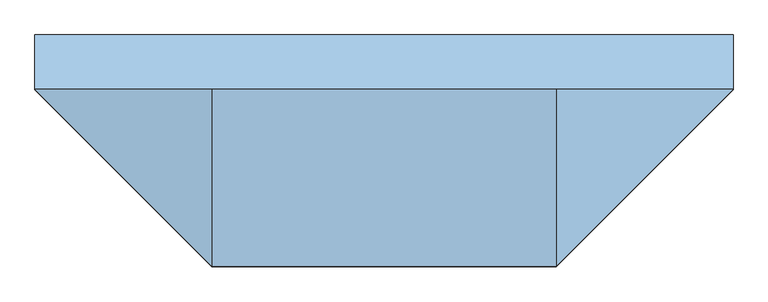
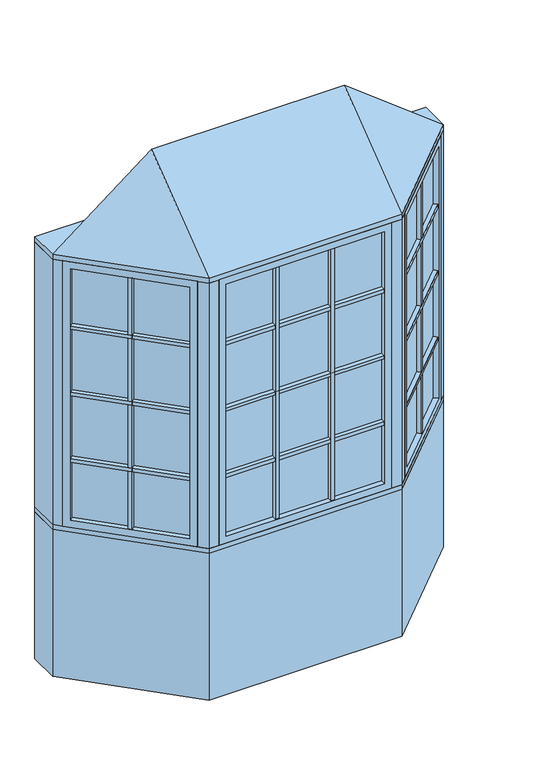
"""IFC4 building model written with IfcOpenShell, lengths in millimetres: window geometry, Pollard_Windows_Tudor Casement Bows and Bays : AML-BAY 45 AFR0614-08-600_GC."""

from ifc_helpers import new_model, si_unit, frame, origin, origin_with_axes, place, context, project, spatial, polyline, outline, extrude, faceted_brep, source, transform, mapped, element, save


def window_a6beb64d(model_context):
    return source(origin(), model_context, "Body", "SolidModel", [
        extrude(outline(polyline([(539.5114193, -506.9608753), (523.9550701, -491.4045261), (901.616171, -113.7434252), (917.1725202, -129.2997743), (539.5114193, -506.9608753)])), frame((0.0, 0.0, 1490.998), z_axis=(0.0, 0.0, 1.0), x_axis=(1.0, 0.0, 0.0)), (0.0, 0.0, 1.0), 18.0),
        extrude(outline(polyline([(520.3629677, -487.8124236), (504.8066185, -472.2560744), (882.4677194, -94.5949735), (898.0240686, -110.1513227), (520.3629677, -487.8124236)])), frame((0.0, 0.0, 1490.998), z_axis=(0.0, 0.0, 1.0), x_axis=(1.0, 0.0, 0.0)), (0.0, 0.0, 1.0), 18.0),
        extrude(outline(polyline([(539.5114193, -506.9608753), (523.9550701, -491.4045261), (901.616171, -113.7434252), (917.1725202, -129.2997743), (539.5114193, -506.9608753)])), frame((0.0, 0.0, 1140.998), z_axis=(0.0, 0.0, 1.0), x_axis=(1.0, 0.0, 0.0)), (0.0, 0.0, 1.0), 18.0),
        extrude(outline(polyline([(520.3629677, -487.8124236), (504.8066185, -472.2560744), (882.4677194, -94.5949735), (898.0240686, -110.1513227), (520.3629677, -487.8124236)])), frame((0.0, 0.0, 1140.998), z_axis=(0.0, 0.0, 1.0), x_axis=(1.0, 0.0, 0.0)), (0.0, 0.0, 1.0), 18.0),
        extrude(outline(polyline([(539.5114193, -506.9608753), (523.9550701, -491.4045261), (901.616171, -113.7434252), (917.1725202, -129.2997743), (539.5114193, -506.9608753)])), frame((0.0, 0.0, 1490.998), z_axis=(0.0, 0.0, 1.0), x_axis=(1.0, 0.0, 0.0)), (0.0, 0.0, 1.0), 18.0),
        extrude(outline(polyline([(520.3629677, -487.8124236), (504.8066185, -472.2560744), (882.4677194, -94.5949735), (898.0240686, -110.1513227), (520.3629677, -487.8124236)])), frame((0.0, 0.0, 1490.998), z_axis=(0.0, 0.0, 1.0), x_axis=(1.0, 0.0, 0.0)), (0.0, 0.0, 1.0), 18.0),
        extrude(outline(polyline([(539.5114193, -506.9608753), (523.9550701, -491.4045261), (901.616171, -113.7434252), (917.1725202, -129.2997743), (539.5114193, -506.9608753)])), frame((0.0, 0.0, 1490.998), z_axis=(0.0, 0.0, 1.0), x_axis=(1.0, 0.0, 0.0)), (0.0, 0.0, 1.0), 18.0),
        extrude(outline(polyline([(520.3629677, -487.8124236), (504.8066185, -472.2560744), (882.4677194, -94.5949735), (898.0240686, -110.1513227), (520.3629677, -487.8124236)])), frame((0.0, 0.0, 1490.998), z_axis=(0.0, 0.0, 1.0), x_axis=(1.0, 0.0, 0.0)), (0.0, 0.0, 1.0), 18.0),
        extrude(outline(polyline([(539.5114193, -506.9608753), (523.9550701, -491.4045261), (901.616171, -113.7434252), (917.1725202, -129.2997743), (539.5114193, -506.9608753)])), frame((0.0, 0.0, 1840.998), z_axis=(0.0, 0.0, 1.0), x_axis=(1.0, 0.0, 0.0)), (0.0, 0.0, 1.0), 18.0),
        extrude(outline(polyline([(520.3629677, -487.8124236), (504.8066185, -472.2560744), (882.4677194, -94.5949735), (898.0240686, -110.1513227), (520.3629677, -487.8124236)])), frame((0.0, 0.0, 1840.998), z_axis=(0.0, 0.0, 1.0), x_axis=(1.0, 0.0, 0.0)), (0.0, 0.0, 1.0), 18.0),
        extrude(outline(polyline([(719.1495816, -296.2100146), (734.7059308, -311.7663638), (721.9780087, -324.4942858), (706.4216595, -308.9379366), (719.1495816, -296.2100146)])), frame((0.0, 0.0, 835.8628), z_axis=(0.0, 0.0, 1.0), x_axis=(1.0, 0.0, 0.0)), (0.0, 0.0, 1.0), 1328.2704),
        extrude(outline(polyline([(715.5574791, -292.6179121), (702.8295571, -305.3458342), (687.2732079, -289.789485), (700.00113, -277.0615629), (715.5574791, -292.6179121)])), frame((0.0, 0.0, 835.8628), z_axis=(0.0, 0.0, 1.0), x_axis=(1.0, 0.0, 0.0)), (0.0, 0.0, 1.0), 1328.2704),
        extrude(outline(polyline([(910.5964271, -104.763169), (514.974814, -500.3847822), (511.3827115, -496.7926797), (907.0043247, -101.1710666), (910.5964271, -104.763169)])), frame((0.0, 0.0, 823.1628), z_axis=(0.0, 0.0, 1.0), x_axis=(1.0, 0.0, 0.0)), (0.0, 0.0, 1.0), 1353.6704),
        faceted_brep([(901.616171, -113.7434252, 835.8628), (919.5766833, -131.7039374, 835.8628), (919.5766833, -131.7039374, 2164.1332), (901.616171, -113.7434252, 2164.1332), (907.0043247, -101.1710666, 823.1628), (910.5964271, -104.763169, 823.1628), (910.5964271, -104.763169, 2176.8332), (907.0043247, -101.1710666, 2176.8332), (880.0635563, -92.1908105, 835.8628), (898.0240686, -110.1513227, 835.8628), (898.0240686, -110.1513227, 2164.1332), (880.0635563, -92.1908105, 2164.1332), (944.9369265, -106.3436941, 799.998), (905.4237996, -66.8305672, 799.998), (905.4237996, -66.8305672, 2199.998), (944.9369265, -106.3436941, 2199.998), (541.9155823, -509.3650383, 2164.1332), (523.9550701, -491.4045261, 2164.1332), (514.974814, -500.3847822, 2176.8332), (511.3827115, -496.7926797, 2176.8332), (520.3629677, -487.8124236, 2164.1332), (502.4024554, -469.8519114, 2164.1332), (477.0422121, -495.2121547, 2199.998), (516.5553391, -534.7252816, 2199.998), (541.9155823, -509.3650383, 835.8628), (523.9550701, -491.4045261, 835.8628), (514.974814, -500.3847822, 823.1628), (511.3827115, -496.7926797, 823.1628), (520.3629677, -487.8124236, 835.8628), (502.4024554, -469.8519114, 835.8628), (477.0422121, -495.2121547, 799.998), (516.5553391, -534.7252816, 799.998)], [[[0, 1, 2, 3]], [[4, 5, 6, 7]], [[8, 9, 10, 11]], [[12, 13, 14, 15]], [[3, 2, 16, 17]], [[7, 6, 18, 19]], [[11, 10, 20, 21]], [[15, 14, 22, 23]], [[17, 16, 24, 25]], [[19, 18, 26, 27]], [[21, 20, 28, 29]], [[23, 22, 30, 31]], [[25, 24, 1, 0]], [[5, 26, 18, 6], [3, 17, 25, 0]], [[27, 26, 5, 4]], [[7, 19, 27, 4], [9, 28, 20, 10]], [[29, 28, 9, 8]], [[13, 30, 22, 14], [11, 21, 29, 8]], [[31, 30, 13, 12]], [[15, 23, 31, 12], [1, 24, 16, 2]]]),
        extrude(outline(polyline([(148.0118667, -544.6806207), (148.0118667, -566.6806207), (130.0118667, -566.6806207), (130.0118667, -544.6806207), (148.0118667, -544.6806207)])), frame((0.0, 0.0, 835.8628), z_axis=(0.0, 0.0, 1.0), x_axis=(1.0, 0.0, 0.0)), (0.0, 0.0, 1.0), 1328.2704),
        extrude(outline(polyline([(148.0118667, -539.6006207), (130.0118667, -539.6006207), (130.0118667, -517.6006207), (148.0118667, -517.6006207), (148.0118667, -539.6006207)])), frame((0.0, 0.0, 835.8628), z_axis=(0.0, 0.0, 1.0), x_axis=(1.0, 0.0, 0.0)), (0.0, 0.0, 1.0), 1328.2704),
        extrude(outline(polyline([(-130.0118667, -544.6806207), (-130.0118667, -566.6806207), (-148.0118667, -566.6806207), (-148.0118667, -544.6806207), (-130.0118667, -544.6806207)])), frame((0.0, 0.0, 835.8628), z_axis=(0.0, 0.0, 1.0), x_axis=(1.0, 0.0, 0.0)), (0.0, 0.0, 1.0), 1328.2704),
        extrude(outline(polyline([(-130.0118667, -539.6006207), (-148.0118667, -539.6006207), (-148.0118667, -517.6006207), (-130.0118667, -517.6006207), (-130.0118667, -539.6006207)])), frame((0.0, 0.0, 835.8628), z_axis=(0.0, 0.0, 1.0), x_axis=(1.0, 0.0, 0.0)), (0.0, 0.0, 1.0), 1328.2704),
        extrude(outline(polyline([(-395.3352, -566.6806207), (-395.3352, -544.6806207), (395.3352, -544.6806207), (395.3352, -566.6806207), (-395.3352, -566.6806207)])), frame((0.0, 0.0, 1140.998), z_axis=(0.0, 0.0, 1.0), x_axis=(1.0, 0.0, 0.0)), (0.0, 0.0, 1.0), 18.0),
        extrude(outline(polyline([(-395.3352, -539.6006207), (-395.3352, -517.6006207), (395.3352, -517.6006207), (395.3352, -539.6006207), (-395.3352, -539.6006207)])), frame((0.0, 0.0, 1140.998), z_axis=(0.0, 0.0, 1.0), x_axis=(1.0, 0.0, 0.0)), (0.0, 0.0, 1.0), 18.0),
        extrude(outline(polyline([(-395.3352, -566.6806207), (-395.3352, -544.6806207), (395.3352, -544.6806207), (395.3352, -566.6806207), (-395.3352, -566.6806207)])), frame((0.0, 0.0, 1490.998), z_axis=(0.0, 0.0, 1.0), x_axis=(1.0, 0.0, 0.0)), (0.0, 0.0, 1.0), 18.0),
        extrude(outline(polyline([(-395.3352, -539.6006207), (-395.3352, -517.6006207), (395.3352, -517.6006207), (395.3352, -539.6006207), (-395.3352, -539.6006207)])), frame((0.0, 0.0, 1490.998), z_axis=(0.0, 0.0, 1.0), x_axis=(1.0, 0.0, 0.0)), (0.0, 0.0, 1.0), 18.0),
        extrude(outline(polyline([(-395.3352, -566.6806207), (-395.3352, -544.6806207), (395.3352, -544.6806207), (395.3352, -566.6806207), (-395.3352, -566.6806207)])), frame((0.0, 0.0, 1490.998), z_axis=(0.0, 0.0, 1.0), x_axis=(1.0, 0.0, 0.0)), (0.0, 0.0, 1.0), 18.0),
        extrude(outline(polyline([(-395.3352, -539.6006207), (-395.3352, -517.6006207), (395.3352, -517.6006207), (395.3352, -539.6006207), (-395.3352, -539.6006207)])), frame((0.0, 0.0, 1490.998), z_axis=(0.0, 0.0, 1.0), x_axis=(1.0, 0.0, 0.0)), (0.0, 0.0, 1.0), 18.0),
        extrude(outline(polyline([(-395.3352, -566.6806207), (-395.3352, -544.6806207), (395.3352, -544.6806207), (395.3352, -566.6806207), (-395.3352, -566.6806207)])), frame((0.0, 0.0, 1490.998), z_axis=(0.0, 0.0, 1.0), x_axis=(1.0, 0.0, 0.0)), (0.0, 0.0, 1.0), 18.0),
        extrude(outline(polyline([(-395.3352, -539.6006207), (-395.3352, -517.6006207), (395.3352, -517.6006207), (395.3352, -539.6006207), (-395.3352, -539.6006207)])), frame((0.0, 0.0, 1490.998), z_axis=(0.0, 0.0, 1.0), x_axis=(1.0, 0.0, 0.0)), (0.0, 0.0, 1.0), 18.0),
        extrude(outline(polyline([(-917.1725202, -129.2997743), (-901.616171, -113.7434252), (-523.9550701, -491.4045261), (-539.5114193, -506.9608753), (-917.1725202, -129.2997743)])), frame((0.0, 0.0, 1140.998), z_axis=(0.0, 0.0, 1.0), x_axis=(1.0, 0.0, 0.0)), (0.0, 0.0, 1.0), 18.0),
        extrude(outline(polyline([(-898.0240686, -110.1513227), (-882.4677194, -94.5949735), (-504.8066185, -472.2560744), (-520.3629677, -487.8124236), (-898.0240686, -110.1513227)])), frame((0.0, 0.0, 1140.998), z_axis=(0.0, 0.0, 1.0), x_axis=(1.0, 0.0, 0.0)), (0.0, 0.0, 1.0), 18.0),
        extrude(outline(polyline([(-917.1725202, -129.2997743), (-901.616171, -113.7434252), (-523.9550701, -491.4045261), (-539.5114193, -506.9608753), (-917.1725202, -129.2997743)])), frame((0.0, 0.0, 1490.998), z_axis=(0.0, 0.0, 1.0), x_axis=(1.0, 0.0, 0.0)), (0.0, 0.0, 1.0), 18.0),
        extrude(outline(polyline([(-898.0240686, -110.1513227), (-882.4677194, -94.5949735), (-504.8066185, -472.2560744), (-520.3629677, -487.8124236), (-898.0240686, -110.1513227)])), frame((0.0, 0.0, 1490.998), z_axis=(0.0, 0.0, 1.0), x_axis=(1.0, 0.0, 0.0)), (0.0, 0.0, 1.0), 18.0),
        extrude(outline(polyline([(-917.1725202, -129.2997743), (-901.616171, -113.7434252), (-523.9550701, -491.4045261), (-539.5114193, -506.9608753), (-917.1725202, -129.2997743)])), frame((0.0, 0.0, 1490.998), z_axis=(0.0, 0.0, 1.0), x_axis=(1.0, 0.0, 0.0)), (0.0, 0.0, 1.0), 18.0),
        extrude(outline(polyline([(-898.0240686, -110.1513227), (-882.4677194, -94.5949735), (-504.8066185, -472.2560744), (-520.3629677, -487.8124236), (-898.0240686, -110.1513227)])), frame((0.0, 0.0, 1490.998), z_axis=(0.0, 0.0, 1.0), x_axis=(1.0, 0.0, 0.0)), (0.0, 0.0, 1.0), 18.0),
        extrude(outline(polyline([(-917.1725202, -129.2997743), (-901.616171, -113.7434252), (-523.9550701, -491.4045261), (-539.5114193, -506.9608753), (-917.1725202, -129.2997743)])), frame((0.0, 0.0, 1490.998), z_axis=(0.0, 0.0, 1.0), x_axis=(1.0, 0.0, 0.0)), (0.0, 0.0, 1.0), 18.0),
        extrude(outline(polyline([(-898.0240686, -110.1513227), (-882.4677194, -94.5949735), (-504.8066185, -472.2560744), (-520.3629677, -487.8124236), (-898.0240686, -110.1513227)])), frame((0.0, 0.0, 1490.998), z_axis=(0.0, 0.0, 1.0), x_axis=(1.0, 0.0, 0.0)), (0.0, 0.0, 1.0), 18.0),
        extrude(outline(polyline([(-917.1725202, -129.2997743), (-901.616171, -113.7434252), (-523.9550701, -491.4045261), (-539.5114193, -506.9608753), (-917.1725202, -129.2997743)])), frame((0.0, 0.0, 1840.998), z_axis=(0.0, 0.0, 1.0), x_axis=(1.0, 0.0, 0.0)), (0.0, 0.0, 1.0), 18.0),
        extrude(outline(polyline([(-898.0240686, -110.1513227), (-882.4677194, -94.5949735), (-504.8066185, -472.2560744), (-520.3629677, -487.8124236), (-898.0240686, -110.1513227)])), frame((0.0, 0.0, 1840.998), z_axis=(0.0, 0.0, 1.0), x_axis=(1.0, 0.0, 0.0)), (0.0, 0.0, 1.0), 18.0),
        extrude(outline(polyline([(-395.3352, -566.6806207), (-395.3352, -544.6806207), (395.3352, -544.6806207), (395.3352, -566.6806207), (-395.3352, -566.6806207)])), frame((0.0, 0.0, 1840.998), z_axis=(0.0, 0.0, 1.0), x_axis=(1.0, 0.0, 0.0)), (0.0, 0.0, 1.0), 18.0),
        extrude(outline(polyline([(-395.3352, -539.6006207), (-395.3352, -517.6006207), (395.3352, -517.6006207), (395.3352, -539.6006207), (-395.3352, -539.6006207)])), frame((0.0, 0.0, 1840.998), z_axis=(0.0, 0.0, 1.0), x_axis=(1.0, 0.0, 0.0)), (0.0, 0.0, 1.0), 18.0),
        extrude(outline(polyline([(-706.4216595, -308.9379366), (-721.9780087, -324.4942858), (-734.7059308, -311.7663638), (-719.1495816, -296.2100146), (-706.4216595, -308.9379366)])), frame((0.0, 0.0, 835.8628), z_axis=(0.0, 0.0, 1.0), x_axis=(1.0, 0.0, 0.0)), (0.0, 0.0, 1.0), 1328.2704),
        extrude(outline(polyline([(-702.8295571, -305.3458342), (-715.5574791, -292.6179121), (-700.00113, -277.0615629), (-687.2732079, -289.789485), (-702.8295571, -305.3458342)])), frame((0.0, 0.0, 835.8628), z_axis=(0.0, 0.0, 1.0), x_axis=(1.0, 0.0, 0.0)), (0.0, 0.0, 1.0), 1328.2704),
        extrude(outline(polyline([(-514.974814, -500.3847822), (-910.5964271, -104.763169), (-907.0043247, -101.1710666), (-511.3827115, -496.7926797), (-514.974814, -500.3847822)])), frame((0.0, 0.0, 823.1628), z_axis=(0.0, 0.0, 1.0), x_axis=(1.0, 0.0, 0.0)), (0.0, 0.0, 1.0), 1353.6704),
        faceted_brep([(-520.3629677, -487.8124236, 2164.1332), (-502.4024554, -469.8519114, 2164.1332), (-502.4024554, -469.8519114, 835.8628), (-520.3629677, -487.8124236, 835.8628), (-514.974814, -500.3847822, 2176.8332), (-511.3827115, -496.7926797, 2176.8332), (-511.3827115, -496.7926797, 823.1628), (-514.974814, -500.3847822, 823.1628), (-541.9155823, -509.3650383, 2164.1332), (-523.9550701, -491.4045261, 2164.1332), (-523.9550701, -491.4045261, 835.8628), (-541.9155823, -509.3650383, 835.8628), (-477.0422121, -495.2121547, 2199.998), (-516.5553391, -534.7252816, 2199.998), (-516.5553391, -534.7252816, 799.998), (-477.0422121, -495.2121547, 799.998), (-880.0635563, -92.1908105, 835.8628), (-898.0240686, -110.1513227, 835.8628), (-907.0043247, -101.1710666, 823.1628), (-910.5964271, -104.763169, 823.1628), (-901.616171, -113.7434252, 835.8628), (-919.5766833, -131.7039374, 835.8628), (-944.9369265, -106.3436941, 799.998), (-905.4237996, -66.8305672, 799.998), (-880.0635563, -92.1908105, 2164.1332), (-898.0240686, -110.1513227, 2164.1332), (-907.0043247, -101.1710666, 2176.8332), (-910.5964271, -104.763169, 2176.8332), (-901.616171, -113.7434252, 2164.1332), (-919.5766833, -131.7039374, 2164.1332), (-944.9369265, -106.3436941, 2199.998), (-905.4237996, -66.8305672, 2199.998)], [[[0, 1, 2, 3]], [[4, 5, 6, 7]], [[8, 9, 10, 11]], [[12, 13, 14, 15]], [[3, 2, 16, 17]], [[7, 6, 18, 19]], [[11, 10, 20, 21]], [[15, 14, 22, 23]], [[17, 16, 24, 25]], [[19, 18, 26, 27]], [[21, 20, 28, 29]], [[23, 22, 30, 31]], [[15, 23, 31, 12], [1, 24, 16, 2]], [[25, 24, 1, 0]], [[5, 26, 18, 6], [3, 17, 25, 0]], [[27, 26, 5, 4]], [[7, 19, 27, 4], [9, 28, 20, 10]], [[29, 28, 9, 8]], [[13, 30, 22, 14], [11, 21, 29, 8]], [[31, 30, 13, 12]]]),
        extrude(outline(polyline([(408.0352, -544.6806207), (-408.0352, -544.6806207), (-408.0352, -539.6006207), (408.0352, -539.6006207), (408.0352, -544.6806207)])), frame((0.0, 0.0, 823.1628), z_axis=(0.0, 0.0, 1.0), x_axis=(1.0, 0.0, 0.0)), (0.0, 0.0, 1.0), 1353.6704),
        faceted_brep([(395.3352, -544.6806207, 835.8628), (395.3352, -570.0806207, 835.8628), (395.3352, -570.0806207, 2164.1332), (395.3352, -544.6806207, 2164.1332), (408.0352, -539.6006207, 823.1628), (408.0352, -544.6806207, 823.1628), (408.0352, -544.6806207, 2176.8332), (408.0352, -539.6006207, 2176.8332), (395.3352, -514.2006207, 835.8628), (395.3352, -539.6006207, 835.8628), (395.3352, -539.6006207, 2164.1332), (395.3352, -514.2006207, 2164.1332), (431.2, -570.0806207, 799.998), (431.2, -514.2006207, 799.998), (431.2, -514.2006207, 2199.998), (431.2, -570.0806207, 2199.998), (-395.3352, -570.0806207, 2164.1332), (-395.3352, -544.6806207, 2164.1332), (-408.0352, -544.6806207, 2176.8332), (-408.0352, -539.6006207, 2176.8332), (-395.3352, -539.6006207, 2164.1332), (-395.3352, -514.2006207, 2164.1332), (-431.2, -514.2006207, 2199.998), (-431.2, -570.0806207, 2199.998), (-395.3352, -570.0806207, 835.8628), (-395.3352, -544.6806207, 835.8628), (-408.0352, -544.6806207, 823.1628), (-408.0352, -539.6006207, 823.1628), (-395.3352, -539.6006207, 835.8628), (-395.3352, -514.2006207, 835.8628), (-431.2, -514.2006207, 799.998), (-431.2, -570.0806207, 799.998)], [[[0, 1, 2, 3]], [[4, 5, 6, 7]], [[8, 9, 10, 11]], [[12, 13, 14, 15]], [[3, 2, 16, 17]], [[7, 6, 18, 19]], [[11, 10, 20, 21]], [[15, 14, 22, 23]], [[17, 16, 24, 25]], [[19, 18, 26, 27]], [[21, 20, 28, 29]], [[23, 22, 30, 31]], [[15, 23, 31, 12], [1, 24, 16, 2]], [[25, 24, 1, 0]], [[5, 26, 18, 6], [3, 17, 25, 0]], [[27, 26, 5, 4]], [[7, 19, 27, 4], [9, 28, 20, 10]], [[29, 28, 9, 8]], [[13, 30, 22, 14], [11, 21, 29, 8]], [[31, 30, 13, 12]]]),
        faceted_brep([(976.5, -74.7806207, 2225.398), (481.2, -570.0806207, 2225.398), (-481.2, -570.0806207, 2225.398), (-976.5, -74.7806207, 2225.398), (-481.2, -74.7806207, 2606.398), (481.2, -74.7806207, 2606.398)], [[[0, 1, 2, 3]], [[3, 2, 4]], [[2, 1, 5, 4]], [[1, 0, 5]], [[0, 3, 4, 5]]]),
        extrude(outline(polyline([(-976.5, 77.6193793), (976.5, 77.6193793), (976.5, -74.7806207), (481.2, -570.0806207), (-481.2, -570.0806207), (-976.5, -74.7806207), (-976.5, 77.6193793)])), frame((0.0, 0.0, 2199.998), z_axis=(0.0, 0.0, 1.0), x_axis=(1.0, 0.0, 0.0)), (0.0, 0.0, 1.0), 25.4),
        extrude(outline(polyline([(-976.5, -74.7806207), (-976.5, 77.6193793), (-913.3738531, 77.6193793), (-913.3738531, -74.7806207), (-944.9369265, -106.3436941), (-976.5, -74.7806207)])), frame((0.0, 0.0, 799.998), z_axis=(0.0, 0.0, 1.0), x_axis=(1.0, 0.0, 0.0)), (0.0, 0.0, 1.0), 1400.0),
        extrude(outline(polyline([(976.5, 77.6193793), (976.5, -74.7806207), (944.9369265, -106.3436941), (913.3738531, -74.7806207), (913.3738531, 77.6193793), (976.5, 77.6193793)])), frame((0.0, 0.0, 799.998), z_axis=(0.0, 0.0, 1.0), x_axis=(1.0, 0.0, 0.0)), (0.0, 0.0, 1.0), 1400.0),
        extrude(outline(polyline([(481.2, -570.0806207), (431.2, -570.0806207), (431.2, -520.0806207), (460.4893219, -520.0806207), (481.2, -499.3699425), (516.5553391, -534.7252816), (481.2, -570.0806207)])), frame((0.0, 0.0, 799.998), z_axis=(0.0, 0.0, 1.0), x_axis=(1.0, 0.0, 0.0)), (0.0, 0.0, 1.0), 1400.0),
        extrude(outline(polyline([(-481.2, -570.0806207), (-516.5553391, -534.7252816), (-481.2, -499.3699425), (-460.4893219, -520.0806207), (-431.2, -520.0806207), (-431.2, -570.0806207), (-481.2, -570.0806207)])), frame((0.0, 0.0, 799.998), z_axis=(0.0, 0.0, 1.0), x_axis=(1.0, 0.0, 0.0)), (0.0, 0.0, 1.0), 1400.0),
        extrude(outline(polyline([(-481.2, -570.0806207), (-976.5, -74.7806207), (-976.5, 77.6193793), (-913.3738531, 77.6193793), (-418.0738531, -417.6806207), (418.0738531, -417.6806207), (913.3738531, 77.6193793), (976.5, 77.6193793), (976.5, -74.7806207), (481.2, -570.0806207), (-481.2, -570.0806207)])), frame((0.0, 0.0, 774.598), z_axis=(0.0, 0.0, 1.0), x_axis=(1.0, 0.0, 0.0)), (0.0, 0.0, 1.0), 25.4),
        extrude(outline(polyline([(-976.5, -74.7806207), (-976.5, 77.6193793), (-913.3738531, 77.6193793), (-418.0738531, -417.6806207), (418.0738531, -417.6806207), (913.3738531, 77.6193793), (976.5, 77.6193793), (976.5, -74.7806207), (481.2, -570.0806207), (-481.2, -570.0806207), (-976.5, -74.7806207)])), origin_with_axes(), (0.0, 0.0, 1.0), 774.598),
    ])


if __name__ == "__main__":
    model = new_model("IFC4")
    model_context = context("Model", 3, world=origin())
    ifc_project = project(units=[si_unit("LENGTHUNIT", "METRE", prefix="MILLI")], contexts=[model_context])
    site = spatial("IfcSite", under=ifc_project)
    building = spatial("IfcBuilding", under=site)
    placement = place(None, origin())
    window_shape = window_a6beb64d(model_context)
    element("IfcWindow", 1, ObjectType="Pollard_Windows_Tudor Casement Bows and Bays : AML-BAY 45 AFR0614-08-600_GC", at=placement, inside=building, context=model_context, shape_type="MappedRepresentation", body=[
        mapped(window_shape, transform((0.0, 0.0, 0.0), x_axis=(1.0, 0.0, 0.0), y_axis=(0.0, 1.0, 0.0), z_axis=(0.0, 0.0, 1.0))),
    ])
    save(model, "model.ifc")
